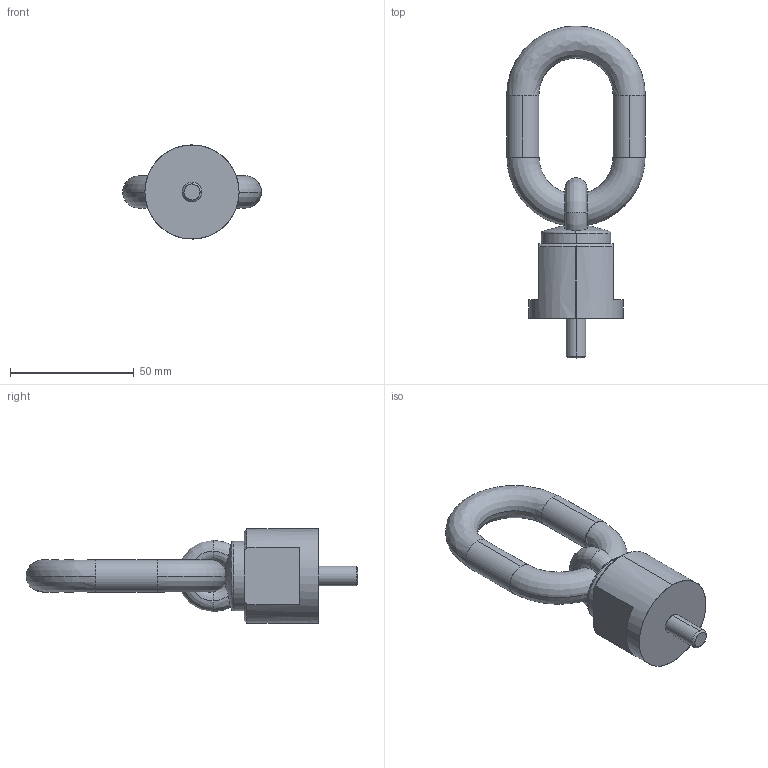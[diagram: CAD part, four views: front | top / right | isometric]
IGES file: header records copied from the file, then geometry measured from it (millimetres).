
Start section: START RECORD GO HERE.
Global section: file name: C8000030816.igs; native system: DASSAULT SYSTEMES CATIA V5 R20 - www.3ds.com; preprocessor: CATIA Version 5 Release 20 ; author: Utente; organization: NB04-ASUS; date: 20200412.162530; units: millimetre
Bounding box: 56 x 134 x 38 mm (x, y, z)
Surface area: 14739.5 mm2 (no closed solid volume)
Topology: 0 solids, 0 shells, 45 faces, 238 edges, 238 vertices
Faces by surface type: revolution 33, extrusion 12
